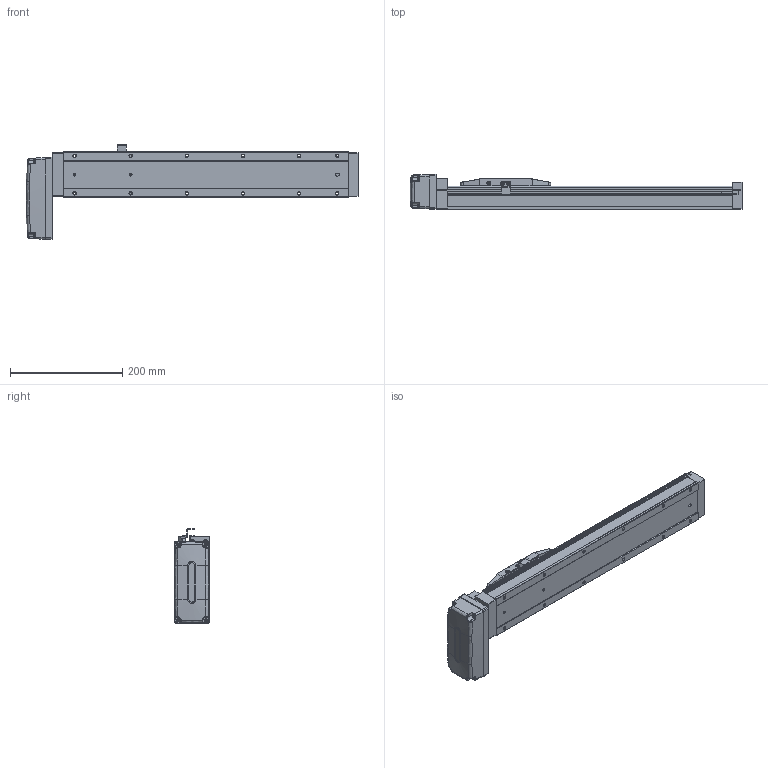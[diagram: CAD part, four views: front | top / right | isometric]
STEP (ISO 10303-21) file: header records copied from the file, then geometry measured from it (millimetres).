
FILE_DESCRIPTION (( 'STEP AP203' ), '1' );
FILE_NAME ('EFS-08R_P.STEP', '2025-07-17T09:19:27', ( '' ), ( '' ), 'SwSTEP 2.0', 'SolidWorks 2024', '' );
FILE_SCHEMA (( 'CONFIG_CONTROL_DESIGN' ));
Length unit declared in the file: millimetre
Products named in the file (1): EFS-08R_P
Bounding box: 591.5 x 63 x 168 mm (x, y, z)
Volume: 2195067 mm3; surface area: 273293.6 mm2
Topology: 15 solids, 15 shells, 943 faces, 2404 edges, 1520 vertices
Faces by surface type: plane 410, cylinder 317, cone 90, bspline 78, torus 38, sphere 10
Entity records: 33111 total; most frequent: CARTESIAN_POINT 10669, ORIENTED_EDGE 4736, DIRECTION 4537, EDGE_CURVE 2368, AXIS2_PLACEMENT_3D 1612, VERTEX_POINT 1520, VECTOR 1313, LINE 1313
